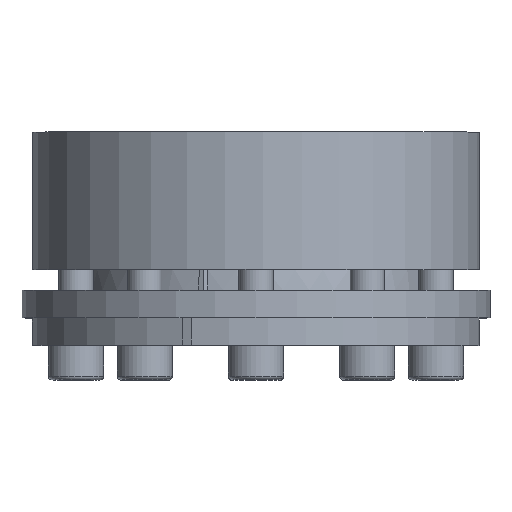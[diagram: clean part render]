
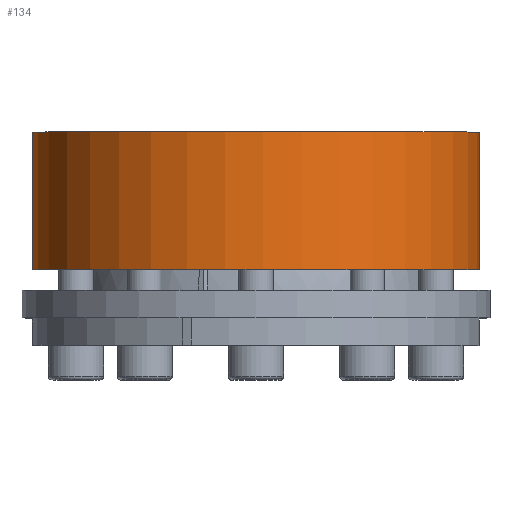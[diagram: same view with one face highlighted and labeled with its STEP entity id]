
A CAD part, top view. The second image highlights one B-rep face of the part: STEP entity #134.
In plain terms, the highlighted cylindrical face has radius 65 mm (diameter 130 mm), a partial arc.
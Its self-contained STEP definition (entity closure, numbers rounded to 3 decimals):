
#134 = ADVANCED_FACE( '', ( #319 ), #320, .T. );
#319 = FACE_OUTER_BOUND( '', #541, .T. );
#320 = CYLINDRICAL_SURFACE( '', #542, 65. );
#541 = EDGE_LOOP( '', ( #918, #919, #920, #921 ) );
#542 = AXIS2_PLACEMENT_3D( '', #922, #923, #924 );
#918 = ORIENTED_EDGE( '', *, *, #1193, .F. );
#919 = ORIENTED_EDGE( '', *, *, #1246, .T. );
#920 = ORIENTED_EDGE( '', *, *, #1255, .T. );
#921 = ORIENTED_EDGE( '', *, *, #1138, .F. );
#922 = CARTESIAN_POINT( '', ( 0., -60., 0. ) );
#923 = DIRECTION( '', ( 0., 1., 0. ) );
#924 = DIRECTION( '', ( 0., 0., -1. ) );
#1138 = EDGE_CURVE( '', #1356, #1357, #1358, .F. );
#1193 = EDGE_CURVE( '', #1455, #1356, #1457, .T. );
#1246 = EDGE_CURVE( '', #1455, #1533, #1535, .F. );
#1255 = EDGE_CURVE( '', #1533, #1357, #1551, .T. );
#1356 = VERTEX_POINT( '', #1737 );
#1357 = VERTEX_POINT( '', #1738 );
#1358 = LINE( '', #1739, #1740 );
#1455 = VERTEX_POINT( '', #1864 );
#1457 = CIRCLE( '', #1867, 65. );
#1533 = VERTEX_POINT( '', #1960 );
#1535 = LINE( '', #1963, #1964 );
#1551 = CIRCLE( '', #1980, 65. );
#1737 = CARTESIAN_POINT( '', ( 18.846, 22., -62.208 ) );
#1738 = CARTESIAN_POINT( '', ( 18.846, 62., -62.208 ) );
#1739 = CARTESIAN_POINT( '', ( 18.846, -60., -62.208 ) );
#1740 = VECTOR( '', #2058, 1000. );
#1864 = CARTESIAN_POINT( '', ( 21.318, 22., -61.405 ) );
#1867 = AXIS2_PLACEMENT_3D( '', #2162, #2163, #2164 );
#1960 = CARTESIAN_POINT( '', ( 21.318, 62., -61.405 ) );
#1963 = CARTESIAN_POINT( '', ( 21.318, -60., -61.405 ) );
#1964 = VECTOR( '', #2246, 1000. );
#1980 = AXIS2_PLACEMENT_3D( '', #2268, #2269, #2270 );
#2058 = DIRECTION( '', ( 0., -1., 0. ) );
#2162 = CARTESIAN_POINT( '', ( 0., 22., 0. ) );
#2163 = DIRECTION( '', ( 0., -1., 0. ) );
#2164 = DIRECTION( '', ( 0., 0., -1. ) );
#2246 = DIRECTION( '', ( 0., -1., 0. ) );
#2268 = CARTESIAN_POINT( '', ( 0., 62., 0. ) );
#2269 = DIRECTION( '', ( 0., -1., 0. ) );
#2270 = DIRECTION( '', ( 0., 0., -1. ) );
